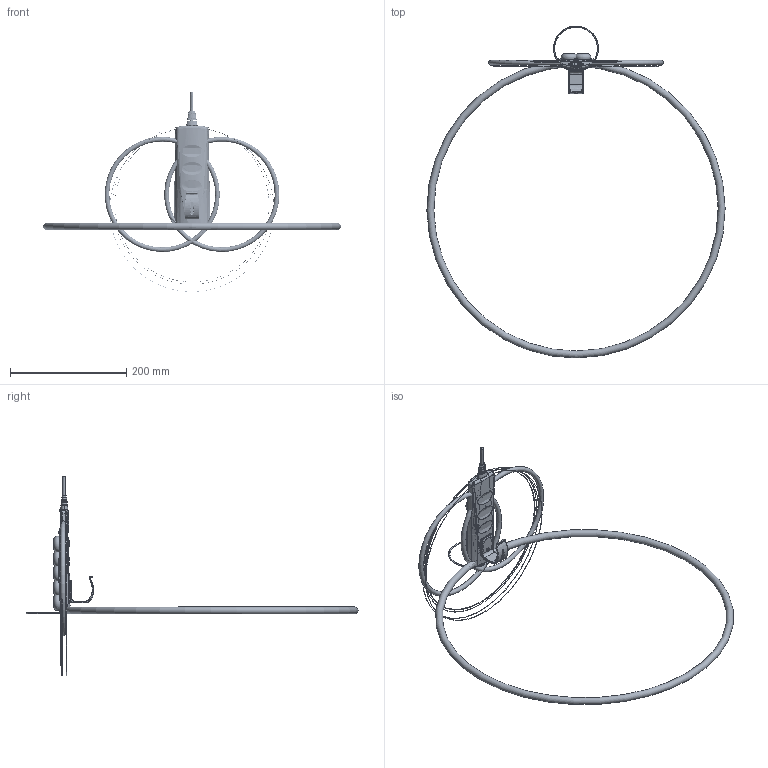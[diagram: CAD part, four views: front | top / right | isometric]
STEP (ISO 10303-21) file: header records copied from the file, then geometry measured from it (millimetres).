
FILE_DESCRIPTION((''),'2;1');
FILE_NAME('H3T_ASM','2014-06-03T',('user'),(''),'PRO/ENGINEER BY PARAMETRIC TECHNOLOGY CORPORATION, 2008090','PRO/ENGINEER BY PARAMETRIC TECHNOLOGY CORPORATION, 2008090','');
FILE_SCHEMA(('CONFIG_CONTROL_DESIGN'));
Products named in the file (1): H3T_ASM
Bounding box: 513.39 x 571.56 x 344.26 mm (x, y, z)
Surface area: 227990.8 mm2 (no closed solid volume)
Topology: 0 solids, 0 shells, 2620 faces, 14256 edges, 13885 vertices
Faces by surface type: bspline 2202, torus 351, sphere 67
Entity records: 235768 total; most frequent: CARTESIAN_POINT 120649, DIRECTION 17472, TRIMMED_CURVE 14124, DEFINITIONAL_REPRESENTATION 13579, PCURVE 13579, COMPOSITE_CURVE_SEGMENT 13579, VECTOR 11612, LINE 11612
